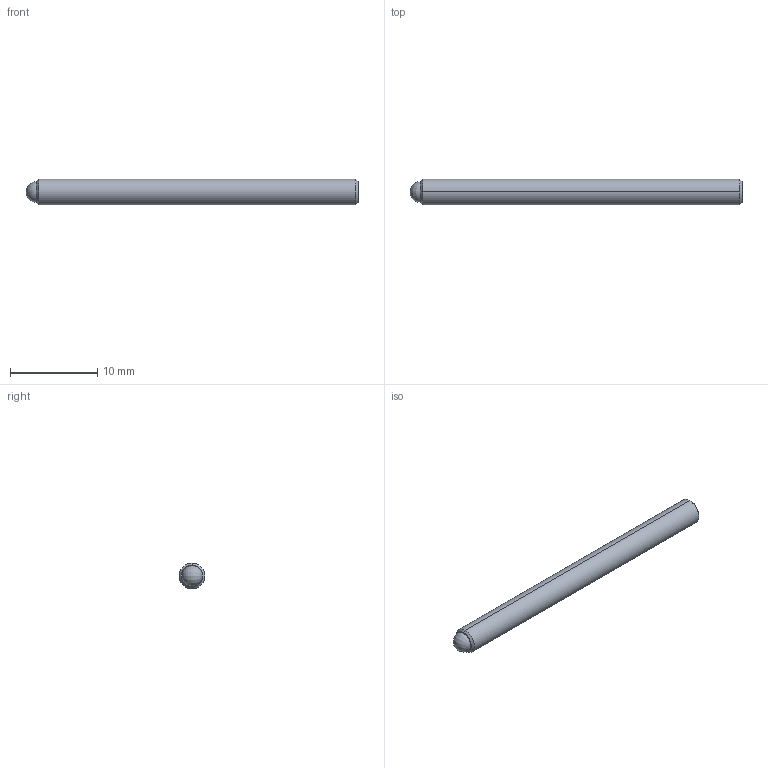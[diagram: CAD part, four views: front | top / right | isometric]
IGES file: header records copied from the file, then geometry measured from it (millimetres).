
Start section: SolidWorks IGES file using analytic representation for surfaces
Global section: file name: C:\Users\workpc\Desktop\KMA Solidworks\TS6-80 Series\TS6-80 SLDPRT\TS6-80-1500.IGS; native system: SolidWorks 2013; preprocessor: SolidWorks 2013; author: workpc; date: 140728.153319; units: inch
Bounding box: 38.09 x 2.97 x 2.97 mm (x, y, z)
Surface area: 398 mm2 (no closed solid volume)
Topology: 0 solids, 0 shells, 20 faces, 204 edges, 200 vertices
Faces by surface type: revolution 10, bspline 10
